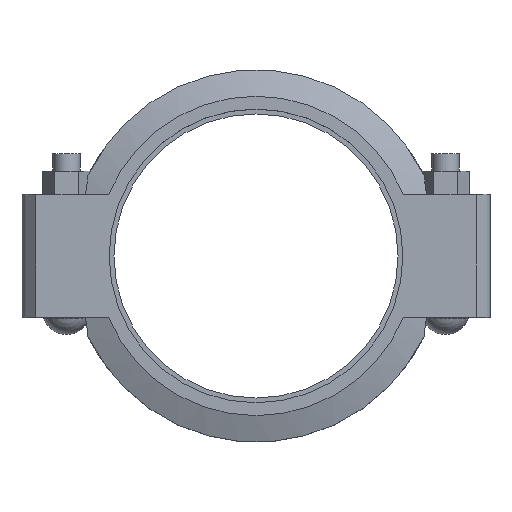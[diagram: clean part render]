
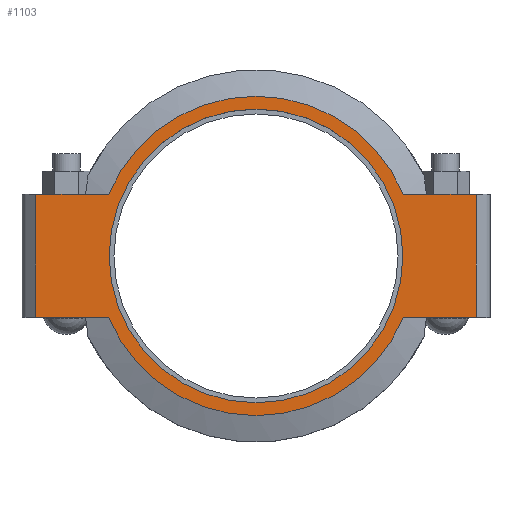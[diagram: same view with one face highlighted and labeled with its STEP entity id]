
A CAD part, top view. The second image highlights one B-rep face of the part: STEP entity #1103.
In plain terms, the highlighted planar face has unit normal (0, 0, 1).
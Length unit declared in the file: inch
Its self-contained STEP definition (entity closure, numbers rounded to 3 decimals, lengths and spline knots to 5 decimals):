
#83=FACE_BOUND('',#234,.T.);
#113=PLANE('',#1218);
#161=FACE_OUTER_BOUND('',#233,.T.);
#233=EDGE_LOOP('',(#874,#875,#876,#877,#878,#879,#880,#881));
#234=EDGE_LOOP('',(#882));
#306=LINE('',#1736,#385);
#317=LINE('',#1787,#396);
#323=LINE('',#1813,#402);
#325=LINE('',#1816,#404);
#326=LINE('',#1821,#405);
#327=LINE('',#1822,#406);
#385=VECTOR('',#1425,0.3937);
#396=VECTOR('',#1456,0.3937);
#402=VECTOR('',#1474,0.3937);
#404=VECTOR('',#1478,0.3937);
#405=VECTOR('',#1483,0.3937);
#406=VECTOR('',#1484,0.3937);
#429=CIRCLE('',#1175,5.375);
#445=CIRCLE('',#1219,5.845);
#446=CIRCLE('',#1220,5.845);
#472=VERTEX_POINT('',#1628);
#507=VERTEX_POINT('',#1733);
#508=VERTEX_POINT('',#1735);
#525=VERTEX_POINT('',#1782);
#526=VERTEX_POINT('',#1786);
#533=VERTEX_POINT('',#1808);
#534=VERTEX_POINT('',#1812);
#535=VERTEX_POINT('',#1818);
#536=VERTEX_POINT('',#1820);
#573=EDGE_CURVE('',#472,#472,#429,.T.);
#624=EDGE_CURVE('',#508,#507,#306,.T.);
#645=EDGE_CURVE('',#526,#525,#317,.T.);
#656=EDGE_CURVE('',#534,#533,#323,.T.);
#658=EDGE_CURVE('',#534,#507,#325,.T.);
#659=EDGE_CURVE('',#533,#535,#445,.T.);
#660=EDGE_CURVE('',#535,#536,#326,.T.);
#661=EDGE_CURVE('',#526,#536,#327,.T.);
#662=EDGE_CURVE('',#525,#508,#446,.T.);
#874=ORIENTED_EDGE('',*,*,#658,.F.);
#875=ORIENTED_EDGE('',*,*,#656,.T.);
#876=ORIENTED_EDGE('',*,*,#659,.T.);
#877=ORIENTED_EDGE('',*,*,#660,.T.);
#878=ORIENTED_EDGE('',*,*,#661,.F.);
#879=ORIENTED_EDGE('',*,*,#645,.T.);
#880=ORIENTED_EDGE('',*,*,#662,.T.);
#881=ORIENTED_EDGE('',*,*,#624,.T.);
#882=ORIENTED_EDGE('',*,*,#573,.T.);
#1103=ADVANCED_FACE('',(#161,#83),#113,.T.);
#1175=AXIS2_PLACEMENT_3D('',#1630,#1329,#1330);
#1218=AXIS2_PLACEMENT_3D('',#1817,#1479,#1480);
#1219=AXIS2_PLACEMENT_3D('',#1819,#1481,#1482);
#1220=AXIS2_PLACEMENT_3D('',#1823,#1485,#1486);
#1329=DIRECTION('center_axis',(0.,0.,-1.));
#1330=DIRECTION('ref_axis',(1.,0.,0.));
#1425=DIRECTION('',(1.,0.,0.));
#1456=DIRECTION('',(1.,0.,0.));
#1474=DIRECTION('',(-1.,0.,0.));
#1478=DIRECTION('',(0.,-1.,0.));
#1479=DIRECTION('center_axis',(0.,0.,1.));
#1480=DIRECTION('ref_axis',(-1.,0.,0.));
#1481=DIRECTION('center_axis',(0.,0.,1.));
#1482=DIRECTION('ref_axis',(1.,0.,0.));
#1483=DIRECTION('',(-1.,0.,0.));
#1484=DIRECTION('',(0.,1.,0.));
#1485=DIRECTION('center_axis',(0.,0.,1.));
#1486=DIRECTION('ref_axis',(1.,0.,0.));
#1628=CARTESIAN_POINT('',(-5.375,0.,1.315));
#1630=CARTESIAN_POINT('Origin',(0.,0.,1.315));
#1733=CARTESIAN_POINT('',(8.065,-2.25,1.315));
#1735=CARTESIAN_POINT('',(5.39458,-2.25,1.315));
#1736=CARTESIAN_POINT('',(-8.565,-2.25,1.315));
#1782=CARTESIAN_POINT('',(-5.39458,-2.25,1.315));
#1786=CARTESIAN_POINT('',(-8.065,-2.25,1.315));
#1787=CARTESIAN_POINT('',(-8.565,-2.25,1.315));
#1808=CARTESIAN_POINT('',(5.39458,2.25,1.315));
#1812=CARTESIAN_POINT('',(8.065,2.25,1.315));
#1813=CARTESIAN_POINT('',(8.565,2.25,1.315));
#1816=CARTESIAN_POINT('',(8.065,-1.125,1.315));
#1817=CARTESIAN_POINT('Origin',(0.,0.,
1.315));
#1818=CARTESIAN_POINT('',(-5.39458,2.25,1.315));
#1819=CARTESIAN_POINT('Origin',(0.,0.,1.315));
#1820=CARTESIAN_POINT('',(-8.065,2.25,1.315));
#1821=CARTESIAN_POINT('',(8.565,2.25,1.315));
#1822=CARTESIAN_POINT('',(-8.065,1.125,1.315));
#1823=CARTESIAN_POINT('Origin',(0.,0.,1.315));
